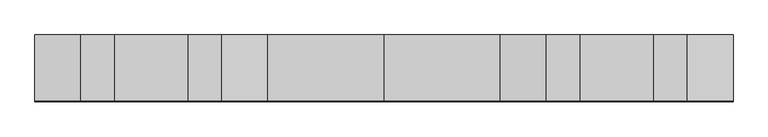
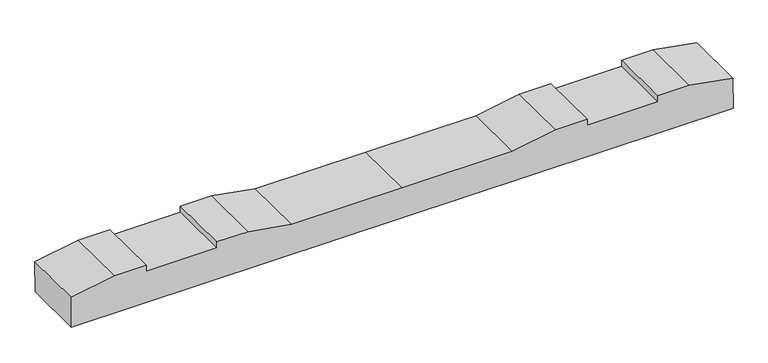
"""IFC4 building model written with IfcOpenShell, lengths in millimetres: proxy geometry, 轨枕-立面角度 : 轨枕-立面角度."""

from ifc_helpers import new_model, si_unit, frame, origin, place, context, project, spatial, polyline, outline, extrude, source, transform, mapped, element, save


def generic_models_a6f90dc1(model_context):
    return source(origin(), model_context, "Body", "SweptSolid", [
        extrude(outline(polyline([(0.0, 0.0), (0.0, -100.020689), (-137.8834664, -124.5), (-237.8834664, -124.5), (-237.8834664, -104.5), (-461.8834664, -104.5), (-461.8834664, -124.5), (-561.8834664, -124.5), (-699.8834664, -100.0), (-1049.8834664, -100.0), (-1399.8834664, -100.0), (-1537.8834664, -124.5), (-1637.8834664, -124.5), (-1637.8834664, -104.5), (-1861.8834664, -104.5), (-1861.8834664, -124.5), (-1961.8834664, -124.5), (-2099.7669328, -100.020689), (-2099.7669328, 0.0), (0.0, 0.0)])), frame((-1049.8834664, 99.0264603, -105.4230059), z_axis=(0.0, -0.999956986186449, 0.009275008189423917), x_axis=(-1.0, 0.0, 0.0)), (0.0, 0.0, 1.0), 200.0),
    ])


if __name__ == "__main__":
    model = new_model("IFC4")
    model_context = context("Model", 3, world=origin())
    ifc_project = project(units=[si_unit("LENGTHUNIT", "METRE", prefix="MILLI")], contexts=[model_context])
    site = spatial("IfcSite", under=ifc_project)
    building = spatial("IfcBuilding", under=site)
    placement = place(None, origin())
    generic_models_shape = generic_models_a6f90dc1(model_context)
    element("IfcBuildingElementProxy", 1, Name="轨枕-立面角度 : 轨枕-立面角度", ObjectType="轨枕-立面角度 : 轨枕-立面角度", at=placement, inside=building, context=model_context, shape_type="MappedRepresentation", body=[
        mapped(generic_models_shape, transform((0.0, 0.0, 0.0), x_axis=(1.0, 0.0, 0.0), y_axis=(0.0, 1.0, 0.0), z_axis=(0.0, 0.0, 1.0))),
    ])
    save(model, "model.ifc")
